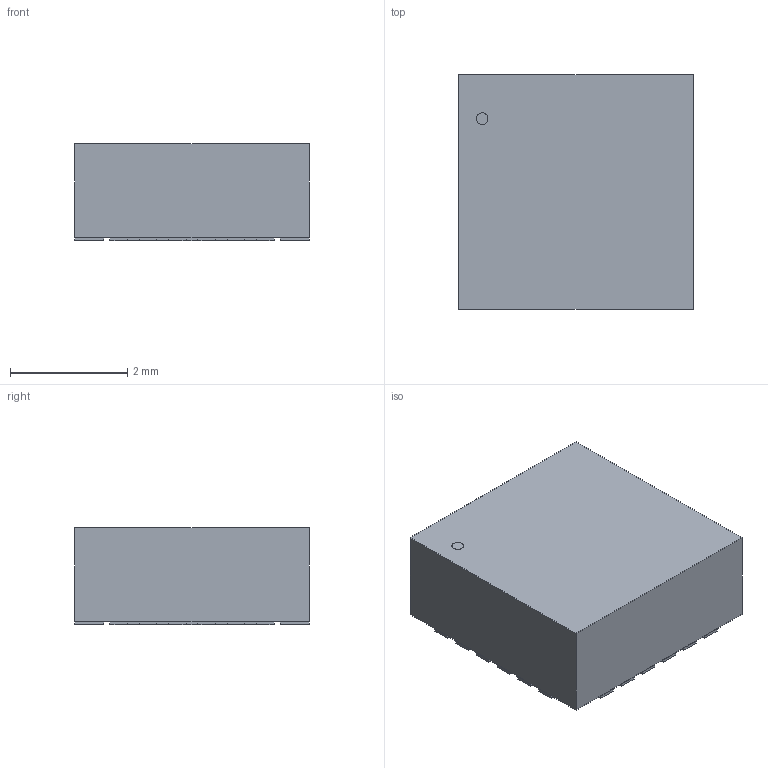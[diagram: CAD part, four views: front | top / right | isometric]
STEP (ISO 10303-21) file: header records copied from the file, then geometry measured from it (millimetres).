
FILE_DESCRIPTION(('STEP AP214'),'1');
FILE_NAME('QFN-24_4X4X0_9_NXP','2025-05-15T08:17:23',(''),(''),'','','');
FILE_SCHEMA(('AUTOMOTIVE_DESIGN'));
Length unit declared in the file: millimetre
Products named in the file (1): product
Bounding box: 4 x 4 x 1.65 mm (x, y, z)
Volume: 26.2 mm3; surface area: 82 mm2
Topology: 27 solids, 27 shells, 159 faces, 315 edges, 210 vertices
Faces by surface type: plane 158, cylinder 1
Full cylindrical faces by diameter (mm): 0.2 x1
Entity records: 3973 total; most frequent: DIRECTION 638, ORIENTED_EDGE 628, CARTESIAN_POINT 373, EDGE_CURVE 314, LINE 312, VECTOR 312, VERTEX_POINT 210, AXIS2_PLACEMENT_3D 163
